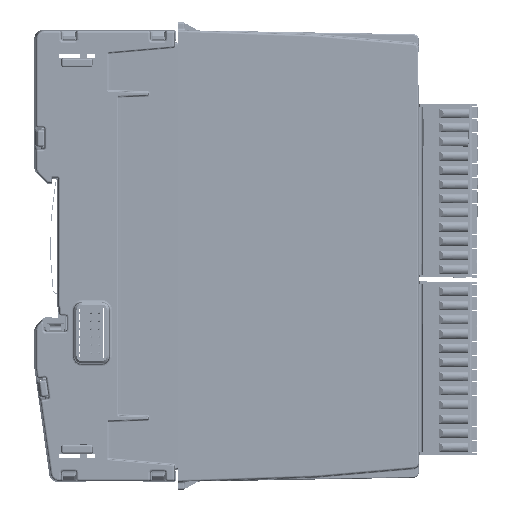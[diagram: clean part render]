
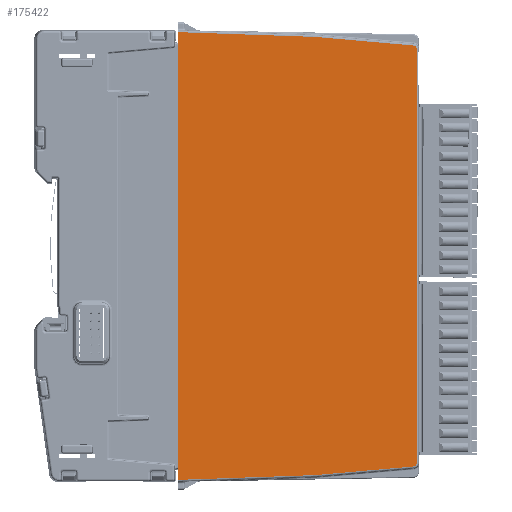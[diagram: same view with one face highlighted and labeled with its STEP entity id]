
A CAD part, left-side view. The second image highlights one B-rep face of the part: STEP entity #175422.
In plain terms, the highlighted planar face has unit normal (-1, -0.018, 0).
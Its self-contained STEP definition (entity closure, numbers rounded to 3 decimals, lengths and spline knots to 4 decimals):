
#5770=ELLIPSE('',#188398,0.0315,0.0315);
#5771=ELLIPSE('',#188399,0.0315,0.0315);
#9541=PLANE('',#188397);
#17403=FACE_OUTER_BOUND('',#27151,.T.);
#27151=EDGE_LOOP('',(#141632,#141633,#141634,#141635,#141636,#141637,#141638,
#141639,#141640,#141641));
#47958=LINE('',#290313,#65177);
#47959=LINE('',#290315,#65178);
#47960=LINE('',#290317,#65179);
#47961=LINE('',#290319,#65180);
#47962=LINE('',#290321,#65181);
#47963=LINE('',#290325,#65182);
#47964=LINE('',#290329,#65183);
#47965=LINE('',#290330,#65184);
#65177=VECTOR('',#222754,39.3701);
#65178=VECTOR('',#222755,39.3701);
#65179=VECTOR('',#222756,39.3701);
#65180=VECTOR('',#222757,39.3701);
#65181=VECTOR('',#222758,39.3701);
#65182=VECTOR('',#222761,39.3701);
#65183=VECTOR('',#222764,39.3701);
#65184=VECTOR('',#222765,39.3701);
#81436=VERTEX_POINT('',#290311);
#81437=VERTEX_POINT('',#290312);
#81438=VERTEX_POINT('',#290314);
#81439=VERTEX_POINT('',#290316);
#81440=VERTEX_POINT('',#290318);
#81441=VERTEX_POINT('',#290320);
#81442=VERTEX_POINT('',#290322);
#81443=VERTEX_POINT('',#290324);
#81444=VERTEX_POINT('',#290326);
#81445=VERTEX_POINT('',#290328);
#102507=EDGE_CURVE('',#81436,#81437,#47958,.T.);
#102508=EDGE_CURVE('',#81438,#81437,#47959,.T.);
#102509=EDGE_CURVE('',#81438,#81439,#47960,.T.);
#102510=EDGE_CURVE('',#81439,#81440,#47961,.T.);
#102511=EDGE_CURVE('',#81440,#81441,#47962,.T.);
#102512=EDGE_CURVE('',#81441,#81442,#5770,.T.);
#102513=EDGE_CURVE('',#81442,#81443,#47963,.T.);
#102514=EDGE_CURVE('',#81443,#81444,#5771,.T.);
#102515=EDGE_CURVE('',#81444,#81445,#47964,.T.);
#102516=EDGE_CURVE('',#81445,#81436,#47965,.T.);
#141632=ORIENTED_EDGE('',*,*,#102507,.T.);
#141633=ORIENTED_EDGE('',*,*,#102508,.F.);
#141634=ORIENTED_EDGE('',*,*,#102509,.T.);
#141635=ORIENTED_EDGE('',*,*,#102510,.T.);
#141636=ORIENTED_EDGE('',*,*,#102511,.T.);
#141637=ORIENTED_EDGE('',*,*,#102512,.T.);
#141638=ORIENTED_EDGE('',*,*,#102513,.T.);
#141639=ORIENTED_EDGE('',*,*,#102514,.T.);
#141640=ORIENTED_EDGE('',*,*,#102515,.T.);
#141641=ORIENTED_EDGE('',*,*,#102516,.T.);
#175422=ADVANCED_FACE('',(#17403),#9541,.T.);
#188397=AXIS2_PLACEMENT_3D('',#290310,#222752,#222753);
#188398=AXIS2_PLACEMENT_3D('',#290323,#222759,#222760);
#188399=AXIS2_PLACEMENT_3D('',#290327,#222762,#222763);
#222752=DIRECTION('center_axis',(-1.,-0.017,
0.));
#222753=DIRECTION('ref_axis',(-0.017,1.,0.));
#222754=DIRECTION('',(0.,0.,-1.));
#222755=DIRECTION('',(0.,0.,1.));
#222756=DIRECTION('',(0.,0.,-1.));
#222757=DIRECTION('',(0.017,-0.999,0.035));
#222758=DIRECTION('',(0.017,-0.996,0.087));
#222759=DIRECTION('center_axis',(-1.,-0.017,
0.));
#222760=DIRECTION('ref_axis',(0.017,-1.,0.));
#222761=DIRECTION('',(0.,0.,1.));
#222762=DIRECTION('center_axis',(-1.,-0.017,
0.));
#222763=DIRECTION('ref_axis',(0.017,-1.,0.));
#222764=DIRECTION('',(-0.017,0.996,0.087));
#222765=DIRECTION('',(-0.017,0.999,0.035));
#290310=CARTESIAN_POINT('Origin',(-0.0296,-0.489,
-2.0669));
#290311=CARTESIAN_POINT('',(-0.0227,-0.8827,0.1083));
#290312=CARTESIAN_POINT('',(-0.0227,-0.8827,-0.0312));
#290313=CARTESIAN_POINT('',(-0.0227,-0.8827,0.128));
#290314=CARTESIAN_POINT('',(-0.0227,-0.8827,-4.1027));
#290315=CARTESIAN_POINT('',(-0.0227,-0.8827,-7.5932));
#290316=CARTESIAN_POINT('',(-0.0227,-0.8827,-4.2421));
#290317=CARTESIAN_POINT('',(-0.0227,-0.8827,0.128));
#290318=CARTESIAN_POINT('',(0.0007,-2.2205,-4.1954));
#290319=CARTESIAN_POINT('',(-0.0282,-0.5654,-4.2532));
#290320=CARTESIAN_POINT('',(0.0174,-3.1772,-4.1117));
#290321=CARTESIAN_POINT('',(-0.0261,-0.6869,-4.3296));
#290322=CARTESIAN_POINT('',(0.0179,-3.2059,-4.0803));
#290323=CARTESIAN_POINT('Origin',(0.0173,-3.1744,
-4.0803));
#290324=CARTESIAN_POINT('',(0.0179,-3.2059,-0.0535));
#290325=CARTESIAN_POINT('',(0.0179,-3.2059,-0.0535));
#290326=CARTESIAN_POINT('',(0.0174,-3.1772,-0.0221));
#290327=CARTESIAN_POINT('Origin',(0.0173,-3.1744,
-0.0535));
#290328=CARTESIAN_POINT('',(0.0007,-2.2205,0.0616));
#290329=CARTESIAN_POINT('',(-0.0261,-0.6869,0.1957));
#290330=CARTESIAN_POINT('',(-0.0282,-0.5654,0.1194));
